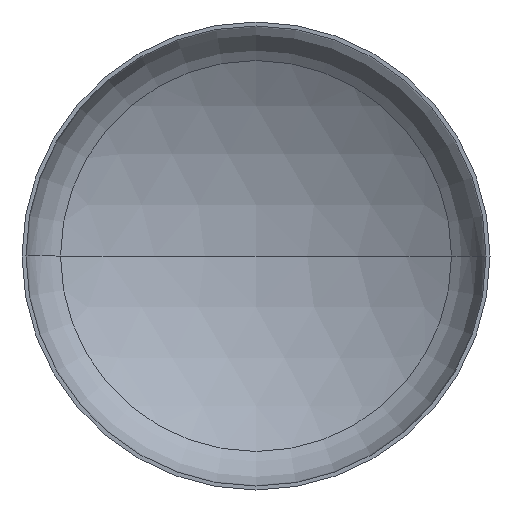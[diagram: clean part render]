
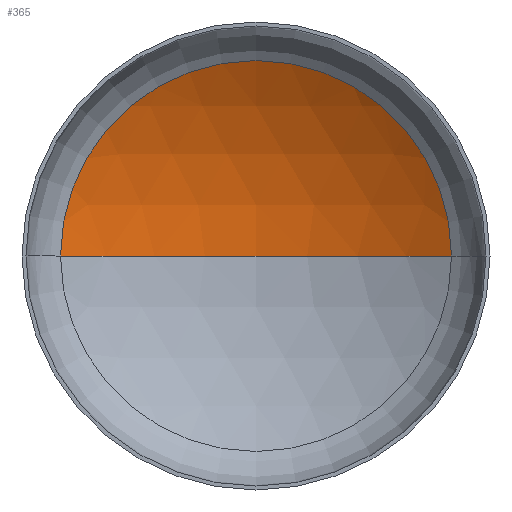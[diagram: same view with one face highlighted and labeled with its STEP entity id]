
A CAD part, front view. The second image highlights one B-rep face of the part: STEP entity #365.
In plain terms, the highlighted spherical face has radius 3600 mm.
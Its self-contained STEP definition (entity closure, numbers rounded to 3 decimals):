
#1 = AXIS2_PLACEMENT_3D ( 'NONE', #239, #153, #356 ) ;
#6 = CARTESIAN_POINT ( 'NONE',  ( 0., 712.711, 0. ) ) ;
#10 = EDGE_LOOP ( 'NONE', ( #140, #58, #122 ) ) ;
#11 = CARTESIAN_POINT ( 'NONE',  ( 0., -2357.445, 0. ) ) ;
#37 = AXIS2_PLACEMENT_3D ( 'NONE', #11, #382, #240 ) ;
#41 = AXIS2_PLACEMENT_3D ( 'NONE', #6, #195, #278 ) ;
#58 = ORIENTED_EDGE ( 'NONE', *, *, #105, .T. ) ;
#65 = CARTESIAN_POINT ( 'NONE',  ( 0., 1242.555, 0. ) ) ;
#80 = AXIS2_PLACEMENT_3D ( 'NONE', #400, #143, #407 ) ;
#88 = CIRCLE ( 'NONE', #1, 3600. ) ;
#104 = EDGE_CURVE ( 'NONE', #131, #108, #403, .T. ) ;
#105 = EDGE_CURVE ( 'NONE', #109, #131, #277, .T. ) ;
#108 = VERTEX_POINT ( 'NONE', #350 ) ;
#109 = VERTEX_POINT ( 'NONE', #65 ) ;
#122 = ORIENTED_EDGE ( 'NONE', *, *, #104, .T. ) ;
#131 = VERTEX_POINT ( 'NONE', #333 ) ;
#140 = ORIENTED_EDGE ( 'NONE', *, *, #347, .F. ) ;
#143 = DIRECTION ( 'NONE',  ( 0., 0., -1. ) ) ;
#153 = DIRECTION ( 'NONE',  ( 0., 0., 1. ) ) ;
#186 = FACE_OUTER_BOUND ( 'NONE', #10, .T. ) ;
#195 = DIRECTION ( 'NONE',  ( 0., -1., 0. ) ) ;
#239 = CARTESIAN_POINT ( 'NONE',  ( 0., -2357.445, 0. ) ) ;
#240 = DIRECTION ( 'NONE',  ( -1., 0., 0. ) ) ;
#277 = CIRCLE ( 'NONE', #37, 3600. ) ;
#278 = DIRECTION ( 'NONE',  ( 1., 0., 0. ) ) ;
#333 = CARTESIAN_POINT ( 'NONE',  ( 1879.931, 712.711, 0. ) ) ;
#347 = EDGE_CURVE ( 'NONE', #109, #108, #88, .T. ) ;
#350 = CARTESIAN_POINT ( 'NONE',  ( -1879.931, 712.711, 0. ) ) ;
#356 = DIRECTION ( 'NONE',  ( 1., 0., 0. ) ) ;
#365 = ADVANCED_FACE ( 'NONE', ( #186 ), #368, .F. ) ;
#368 = SPHERICAL_SURFACE ( 'NONE', #80, 3600. ) ;
#382 = DIRECTION ( 'NONE',  ( 0., 0., -1. ) ) ;
#400 = CARTESIAN_POINT ( 'NONE',  ( 0., -2357.445, 0. ) ) ;
#403 = CIRCLE ( 'NONE', #41, 1879.931 ) ;
#407 = DIRECTION ( 'NONE',  ( -1., 0., 0. ) ) ;
